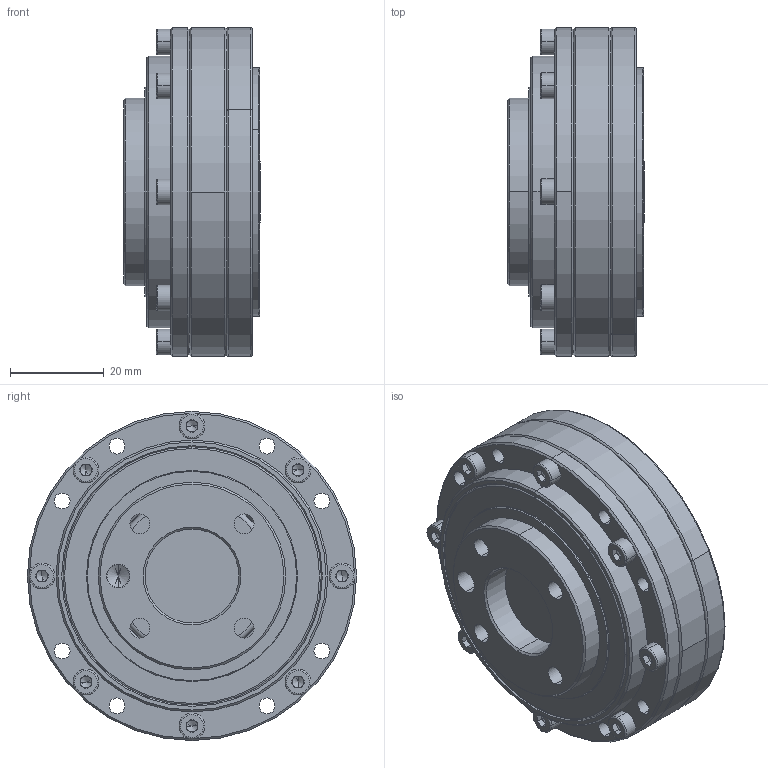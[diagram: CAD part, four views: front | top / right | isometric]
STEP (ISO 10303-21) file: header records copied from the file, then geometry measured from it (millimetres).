
FILE_DESCRIPTION (( 'STEP AP203' ), '1' );
FILE_NAME ('LCD-14-XXX-C-I.STEP', '2022-06-25T02:16:48', ( '' ), ( '' ), 'SwSTEP 2.0', 'SolidWorks 2013', '' );
FILE_SCHEMA (( 'CONFIG_CONTROL_DESIGN' ));
Length unit declared in the file: millimetre
Products named in the file (17): RZC-14S-02; RZC-14悵厥殤; RZC-14S; LCD-14--XXX-P01(P01A)-TT _14; LCD-14-XXX-C-I; socket head cap screw_din_内六角圆柱头螺钉M3 x 16; LCD-14-XXX-P03; countersunk flat head cross recess screw_din_ISO 7046-1 - M2 x 4 - Z --- 4N; LCD-14-XXX-P02A; 15Z-45555; LCD-14-P04-3; RZC-14S-01; LCD-14-P04-2; socket head cap screw_din_内六角圆柱头螺钉M3 x 12; socket head cap screw_din_内六角圆柱头螺钉M3 x 8; DB-14-I; LCD-14-P04-1
Assembly tree (33 placements, depth 3):
  LCD-14-XXX-C-I
    LCD-14-XXX-P03
    DB-14-I
    LCD-14--XXX-P01(P01A)-TT _14
    LCD-14-XXX-P02A
    RZC-14S
      RZC-14S-02
      RZC-14S-01
      RZC-14悵厥殤
    countersunk flat head cross recess screw_din_ISO 7046-1 - M2 x 4 - Z --- 4N  x4
    LCD-14-P04-1
    LCD-14-P04-2
    LCD-14-P04-3
    socket head cap screw_din_内六角圆柱头螺钉M3 x 16  x4
    socket head cap screw_din_内六角圆柱头螺钉M3 x 12  x4
    15Z-45555
    socket head cap screw_din_内六角圆柱头螺钉M3 x 8  x9
Bounding box: 29.2 x 70.2 x 70.2 mm (x, y, z)
Volume: 71823.3 mm3; surface area: 51238.2 mm2
Topology: 32 solids, 32 shells, 1264 faces, 3158 edges, 1918 vertices
Faces by surface type: plane 440, cylinder 402, cone 200, torus 176, sphere 46
Entity records: 26208 total; most frequent: CARTESIAN_POINT 4599, DIRECTION 4442, ORIENTED_EDGE 3842, AXIS2_PLACEMENT_3D 1924, EDGE_CURVE 1921, VERTEX_POINT 1225, CIRCLE 1124, EDGE_LOOP 962
